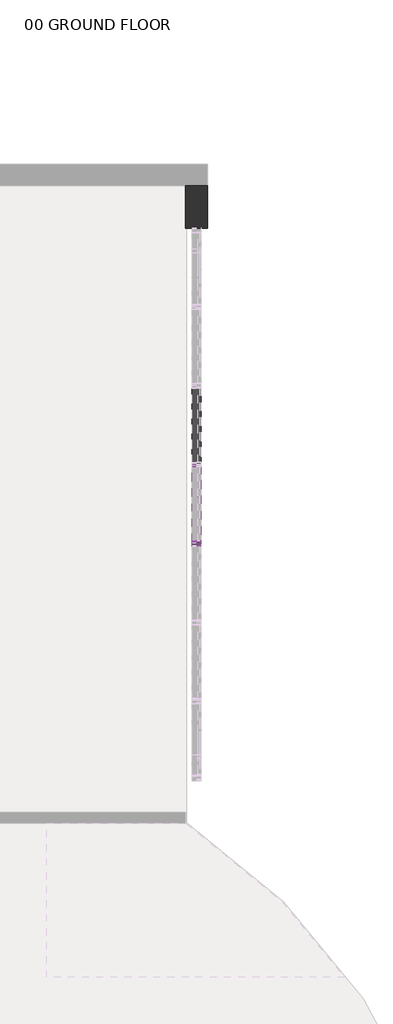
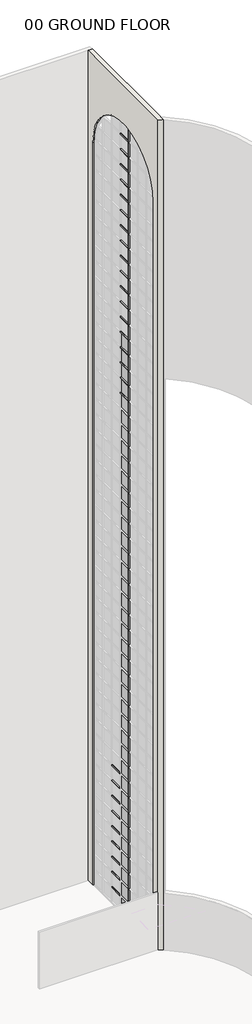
# One storey, part 28 of 33: 81 members, 38 plates, 1 wall.
"""IFC4 building model written with IfcOpenShell, lengths in millimetres."""

from ifc_helpers import new_model, si_unit, frame, origin, place, context, project, spatial, polyline, circle_curve, transform, mapped, element, save
from ifc_brep_helpers import plane_surface, revolved_surface, advanced_brep
from components import member_14f97ceb, member_d1490fb0, member_2b49869a, member_6f85aded, member_a6249bd8, system_panel_glazed_c90b0923, system_panel_glazed_ba000c98

model = new_model("IFC4")

# Units and contexts
model_context = context("Model", 3, world=origin())
ifc_project = project(units=[si_unit("LENGTHUNIT", "METRE", prefix="MILLI")], contexts=[model_context])

# Site, building, storey
site = spatial("IfcSite", under=ifc_project)
building = spatial("IfcBuilding", under=site)
storey = spatial("IfcBuildingStorey", under=building, Name="00 GROUND FLOOR", Elevation=0.0)

# Members
placement = place(None, origin())
member_shape = member_14f97ceb(model_context)
element("IfcMember", 1, ObjectType="Rectangular Mullion : 2.5\" x 5\" rectangular", at=placement, inside=storey, context=model_context, shape_type="MappedRepresentation", body=[
    mapped(member_shape, transform((44184.4050515, 29645.8821428, 0.0), x_axis=(0.0, 0.0, -1.0), y_axis=(-1.0, 0.0, 0.0), z_axis=(0.0, 1.0, 0.0))),
])
member_2_shape = member_d1490fb0(model_context)
element("IfcMember", 2, ObjectType="Rectangular Mullion : 2.5\" x 5\" rectangular", at=placement, inside=storey, context=model_context, shape_type="MappedRepresentation", body=[
    mapped(member_2_shape, transform((44184.4050515, 29709.3821428, 1219.2), x_axis=(0.0, 0.0, 1.0), y_axis=(-1.0, 0.0, 0.0), z_axis=(0.0, -1.0, 0.0))),
])
element("IfcMember", 3, ObjectType="Rectangular Mullion : 2.5\" x 5\" rectangular", at=placement, inside=storey, context=model_context, shape_type="MappedRepresentation", body=[
    mapped(member_2_shape, transform((44184.4050515, 29709.3821428, 2438.4), x_axis=(0.0, 0.0, 1.0), y_axis=(-1.0, 0.0, 0.0), z_axis=(0.0, -1.0, 0.0))),
])
element("IfcMember", 4, ObjectType="Rectangular Mullion : 2.5\" x 5\" rectangular", at=placement, inside=storey, context=model_context, shape_type="MappedRepresentation", body=[
    mapped(member_2_shape, transform((44184.4050515, 29709.3821428, 3657.6), x_axis=(0.0, 0.0, 1.0), y_axis=(-1.0, 0.0, 0.0), z_axis=(0.0, -1.0, 0.0))),
])
element("IfcMember", 5, ObjectType="Rectangular Mullion : 2.5\" x 5\" rectangular", at=placement, inside=storey, context=model_context, shape_type="MappedRepresentation", body=[
    mapped(member_2_shape, transform((44184.4050515, 29709.3821428, 4876.8), x_axis=(0.0, 0.0, 1.0), y_axis=(-1.0, 0.0, 0.0), z_axis=(0.0, -1.0, 0.0))),
])
element("IfcMember", 6, ObjectType="Rectangular Mullion : 2.5\" x 5\" rectangular", at=placement, inside=storey, context=model_context, shape_type="MappedRepresentation", body=[
    mapped(member_2_shape, transform((44184.4050515, 29709.3821428, 6096.0), x_axis=(0.0, 0.0, 1.0), y_axis=(-1.0, 0.0, 0.0), z_axis=(0.0, -1.0, 0.0))),
])
element("IfcMember", 7, ObjectType="Rectangular Mullion : 2.5\" x 5\" rectangular", at=placement, inside=storey, context=model_context, shape_type="MappedRepresentation", body=[
    mapped(member_2_shape, transform((44184.4050515, 29709.3821428, 7315.2), x_axis=(0.0, 0.0, 1.0), y_axis=(-1.0, 0.0, 0.0), z_axis=(0.0, -1.0, 0.0))),
])
element("IfcMember", 8, ObjectType="Rectangular Mullion : 2.5\" x 5\" rectangular", at=placement, inside=storey, context=model_context, shape_type="MappedRepresentation", body=[
    mapped(member_2_shape, transform((44184.4050515, 29709.3821428, 8534.4), x_axis=(0.0, 0.0, 1.0), y_axis=(-1.0, 0.0, 0.0), z_axis=(0.0, -1.0, 0.0))),
])
element("IfcMember", 9, ObjectType="Rectangular Mullion : 2.5\" x 5\" rectangular", at=placement, inside=storey, context=model_context, shape_type="MappedRepresentation", body=[
    mapped(member_2_shape, transform((44184.4050515, 29709.3821428, 9753.6), x_axis=(0.0, 0.0, 1.0), y_axis=(-1.0, 0.0, 0.0), z_axis=(0.0, -1.0, 0.0))),
])
element("IfcMember", 10, ObjectType="Rectangular Mullion : 2.5\" x 5\" rectangular", at=placement, inside=storey, context=model_context, shape_type="MappedRepresentation", body=[
    mapped(member_2_shape, transform((44184.4050515, 29709.3821428, 10972.8), x_axis=(0.0, 0.0, 1.0), y_axis=(-1.0, 0.0, 0.0), z_axis=(0.0, -1.0, 0.0))),
])
element("IfcMember", 11, ObjectType="Rectangular Mullion : 2.5\" x 5\" rectangular", at=placement, inside=storey, context=model_context, shape_type="MappedRepresentation", body=[
    mapped(member_2_shape, transform((44184.4050515, 28577.2678572, 41452.8), x_axis=(0.0, 0.0, 1.0), y_axis=(-1.0, 0.0, 0.0), z_axis=(0.0, -1.0, 0.0))),
])
element("IfcMember", 12, ObjectType="Rectangular Mullion : 2.5\" x 5\" rectangular", at=placement, inside=storey, context=model_context, shape_type="MappedRepresentation", body=[
    mapped(member_2_shape, transform((44184.4050515, 28577.2678572, 42672.0), x_axis=(0.0, 0.0, 1.0), y_axis=(-1.0, 0.0, 0.0), z_axis=(0.0, -1.0, 0.0))),
])
element("IfcMember", 13, ObjectType="Rectangular Mullion : 2.5\" x 5\" rectangular", at=placement, inside=storey, context=model_context, shape_type="MappedRepresentation", body=[
    mapped(member_2_shape, transform((44184.4050515, 28577.2678572, 43891.2), x_axis=(0.0, 0.0, 1.0), y_axis=(-1.0, 0.0, 0.0), z_axis=(0.0, -1.0, 0.0))),
])
element("IfcMember", 14, ObjectType="Rectangular Mullion : 2.5\" x 5\" rectangular", at=placement, inside=storey, context=model_context, shape_type="MappedRepresentation", body=[
    mapped(member_2_shape, transform((44184.4050515, 28577.2678572, 45110.4), x_axis=(0.0, 0.0, 1.0), y_axis=(-1.0, 0.0, 0.0), z_axis=(0.0, -1.0, 0.0))),
])
element("IfcMember", 15, ObjectType="Rectangular Mullion : 2.5\" x 5\" rectangular", at=placement, inside=storey, context=model_context, shape_type="MappedRepresentation", body=[
    mapped(member_2_shape, transform((44184.4050515, 28577.2678572, 46329.6), x_axis=(0.0, 0.0, 1.0), y_axis=(-1.0, 0.0, 0.0), z_axis=(0.0, -1.0, 0.0))),
])
element("IfcMember", 16, ObjectType="Rectangular Mullion : 2.5\" x 5\" rectangular", at=placement, inside=storey, context=model_context, shape_type="MappedRepresentation", body=[
    mapped(member_2_shape, transform((44184.4050515, 28577.2678572, 47548.8), x_axis=(0.0, 0.0, 1.0), y_axis=(-1.0, 0.0, 0.0), z_axis=(0.0, -1.0, 0.0))),
])
element("IfcMember", 17, ObjectType="Rectangular Mullion : 2.5\" x 5\" rectangular", at=placement, inside=storey, context=model_context, shape_type="MappedRepresentation", body=[
    mapped(member_2_shape, transform((44184.4050515, 28577.2678572, 48768.0), x_axis=(0.0, 0.0, 1.0), y_axis=(-1.0, 0.0, 0.0), z_axis=(0.0, -1.0, 0.0))),
])
element("IfcMember", 18, ObjectType="Rectangular Mullion : 2.5\" x 5\" rectangular", at=placement, inside=storey, context=model_context, shape_type="MappedRepresentation", body=[
    mapped(member_2_shape, transform((44184.4050515, 28577.2678572, 49987.2), x_axis=(0.0, 0.0, 1.0), y_axis=(-1.0, 0.0, 0.0), z_axis=(0.0, -1.0, 0.0))),
])
element("IfcMember", 19, ObjectType="Rectangular Mullion : 2.5\" x 5\" rectangular", at=placement, inside=storey, context=model_context, shape_type="MappedRepresentation", body=[
    mapped(member_2_shape, transform((44184.4050515, 28577.2678572, 51206.4), x_axis=(0.0, 0.0, 1.0), y_axis=(-1.0, 0.0, 0.0), z_axis=(0.0, -1.0, 0.0))),
])
element("IfcMember", 20, ObjectType="Rectangular Mullion : 2.5\" x 5\" rectangular", at=placement, inside=storey, context=model_context, shape_type="MappedRepresentation", body=[
    mapped(member_2_shape, transform((44184.4050515, 28577.2678572, 52425.6), x_axis=(0.0, 0.0, 1.0), y_axis=(-1.0, 0.0, 0.0), z_axis=(0.0, -1.0, 0.0))),
])
element("IfcMember", 21, ObjectType="Rectangular Mullion : 2.5\" x 5\" rectangular", at=placement, inside=storey, context=model_context, shape_type="MappedRepresentation", body=[
    mapped(member_2_shape, transform((44184.4050515, 28577.2678572, 53644.8), x_axis=(0.0, 0.0, 1.0), y_axis=(-1.0, 0.0, 0.0), z_axis=(0.0, -1.0, 0.0))),
])
element("IfcMember", 22, ObjectType="Rectangular Mullion : 2.5\" x 5\" rectangular", at=placement, inside=storey, context=model_context, shape_type="MappedRepresentation", body=[
    mapped(member_2_shape, transform((44184.4050515, 28577.2678572, 54864.0), x_axis=(0.0, 0.0, 1.0), y_axis=(-1.0, 0.0, 0.0), z_axis=(0.0, -1.0, 0.0))),
])
element("IfcMember", 23, ObjectType="Rectangular Mullion : 2.5\" x 5\" rectangular", at=placement, inside=storey, context=model_context, shape_type="MappedRepresentation", body=[
    mapped(member_2_shape, transform((44184.4050515, 28577.2678572, 56083.2), x_axis=(0.0, 0.0, 1.0), y_axis=(-1.0, 0.0, 0.0), z_axis=(0.0, -1.0, 0.0))),
])
element("IfcMember", 24, ObjectType="Rectangular Mullion : 2.5\" x 5\" rectangular", at=placement, inside=storey, context=model_context, shape_type="MappedRepresentation", body=[
    mapped(member_2_shape, transform((44184.4050515, 28577.2678572, 57302.4), x_axis=(0.0, 0.0, 1.0), y_axis=(-1.0, 0.0, 0.0), z_axis=(0.0, -1.0, 0.0))),
])
element("IfcMember", 25, ObjectType="Rectangular Mullion : 2.5\" x 5\" rectangular", at=placement, inside=storey, context=model_context, shape_type="MappedRepresentation", body=[
    mapped(member_2_shape, transform((44184.4050515, 28577.2678572, 58521.6), x_axis=(0.0, 0.0, 1.0), y_axis=(-1.0, 0.0, 0.0), z_axis=(0.0, -1.0, 0.0))),
])
element("IfcMember", 26, ObjectType="Rectangular Mullion : 2.5\" x 5\" rectangular", at=placement, inside=storey, context=model_context, shape_type="MappedRepresentation", body=[
    mapped(member_2_shape, transform((44184.4050515, 28577.2678572, 59740.8), x_axis=(0.0, 0.0, 1.0), y_axis=(-1.0, 0.0, 0.0), z_axis=(0.0, -1.0, 0.0))),
])
element("IfcMember", 27, ObjectType="Rectangular Mullion : 2.5\" x 5\" rectangular", at=placement, inside=storey, context=model_context, shape_type="MappedRepresentation", body=[
    mapped(member_2_shape, transform((44184.4050515, 28577.2678572, 60960.0), x_axis=(0.0, 0.0, 1.0), y_axis=(-1.0, 0.0, 0.0), z_axis=(0.0, -1.0, 0.0))),
])
element("IfcMember", 28, ObjectType="Rectangular Mullion : 2.5\" x 5\" rectangular", at=placement, inside=storey, context=model_context, shape_type="MappedRepresentation", body=[
    mapped(member_2_shape, transform((44184.4050515, 28577.2678572, 62179.2), x_axis=(0.0, 0.0, 1.0), y_axis=(-1.0, 0.0, 0.0), z_axis=(0.0, -1.0, 0.0))),
])
member_3_shape = member_2b49869a(model_context)
element("IfcMember", 29, ObjectType="Rectangular Mullion : 2.5\" x 5\" rectangular", at=placement, inside=storey, context=model_context, shape_type="MappedRepresentation", body=[
    mapped(member_3_shape, transform((44184.4050515, 28545.5178572, 0.0), x_axis=(0.0, -1.0, 0.0), y_axis=(-1.0, 0.0, 0.0), z_axis=(0.0, 0.0, -1.0))),
])
element("IfcMember", 30, ObjectType="Rectangular Mullion : 2.5\" x 5\" rectangular", at=placement, inside=storey, context=model_context, shape_type="MappedRepresentation", body=[
    mapped(member_3_shape, transform((44184.4050515, 28545.5178572, 1219.2), x_axis=(0.0, -1.0, 0.0), y_axis=(-1.0, 0.0, 0.0), z_axis=(0.0, 0.0, -1.0))),
])
element("IfcMember", 31, ObjectType="Rectangular Mullion : 2.5\" x 5\" rectangular", at=placement, inside=storey, context=model_context, shape_type="MappedRepresentation", body=[
    mapped(member_3_shape, transform((44184.4050515, 28545.5178572, 2438.4), x_axis=(0.0, -1.0, 0.0), y_axis=(-1.0, 0.0, 0.0), z_axis=(0.0, 0.0, -1.0))),
])
element("IfcMember", 32, ObjectType="Rectangular Mullion : 2.5\" x 5\" rectangular", at=placement, inside=storey, context=model_context, shape_type="MappedRepresentation", body=[
    mapped(member_3_shape, transform((44184.4050515, 28545.5178572, 3657.6), x_axis=(0.0, -1.0, 0.0), y_axis=(-1.0, 0.0, 0.0), z_axis=(0.0, 0.0, -1.0))),
])
element("IfcMember", 33, ObjectType="Rectangular Mullion : 2.5\" x 5\" rectangular", at=placement, inside=storey, context=model_context, shape_type="MappedRepresentation", body=[
    mapped(member_3_shape, transform((44184.4050515, 28545.5178572, 4876.8), x_axis=(0.0, -1.0, 0.0), y_axis=(-1.0, 0.0, 0.0), z_axis=(0.0, 0.0, -1.0))),
])
element("IfcMember", 34, ObjectType="Rectangular Mullion : 2.5\" x 5\" rectangular", at=placement, inside=storey, context=model_context, shape_type="MappedRepresentation", body=[
    mapped(member_3_shape, transform((44184.4050515, 28545.5178572, 6096.0), x_axis=(0.0, -1.0, 0.0), y_axis=(-1.0, 0.0, 0.0), z_axis=(0.0, 0.0, -1.0))),
])
element("IfcMember", 35, ObjectType="Rectangular Mullion : 2.5\" x 5\" rectangular", at=placement, inside=storey, context=model_context, shape_type="MappedRepresentation", body=[
    mapped(member_3_shape, transform((44184.4050515, 28545.5178572, 7315.2), x_axis=(0.0, -1.0, 0.0), y_axis=(-1.0, 0.0, 0.0), z_axis=(0.0, 0.0, -1.0))),
])
element("IfcMember", 36, ObjectType="Rectangular Mullion : 2.5\" x 5\" rectangular", at=placement, inside=storey, context=model_context, shape_type="MappedRepresentation", body=[
    mapped(member_3_shape, transform((44184.4050515, 28545.5178572, 8534.4), x_axis=(0.0, -1.0, 0.0), y_axis=(-1.0, 0.0, 0.0), z_axis=(0.0, 0.0, -1.0))),
])
element("IfcMember", 37, ObjectType="Rectangular Mullion : 2.5\" x 5\" rectangular", at=placement, inside=storey, context=model_context, shape_type="MappedRepresentation", body=[
    mapped(member_3_shape, transform((44184.4050515, 28545.5178572, 9753.6), x_axis=(0.0, -1.0, 0.0), y_axis=(-1.0, 0.0, 0.0), z_axis=(0.0, 0.0, -1.0))),
])
element("IfcMember", 38, ObjectType="Rectangular Mullion : 2.5\" x 5\" rectangular", at=placement, inside=storey, context=model_context, shape_type="MappedRepresentation", body=[
    mapped(member_3_shape, transform((44184.4050515, 28545.5178572, 10972.8), x_axis=(0.0, -1.0, 0.0), y_axis=(-1.0, 0.0, 0.0), z_axis=(0.0, 0.0, -1.0))),
])
element("IfcMember", 39, ObjectType="Rectangular Mullion : 2.5\" x 5\" rectangular", at=placement, inside=storey, context=model_context, shape_type="MappedRepresentation", body=[
    mapped(member_3_shape, transform((44184.4050515, 28545.5178572, 12192.0), x_axis=(0.0, -1.0, 0.0), y_axis=(-1.0, 0.0, 0.0), z_axis=(0.0, 0.0, -1.0))),
])
element("IfcMember", 40, ObjectType="Rectangular Mullion : 2.5\" x 5\" rectangular", at=placement, inside=storey, context=model_context, shape_type="MappedRepresentation", body=[
    mapped(member_3_shape, transform((44184.4050515, 28545.5178572, 13411.2), x_axis=(0.0, -1.0, 0.0), y_axis=(-1.0, 0.0, 0.0), z_axis=(0.0, 0.0, -1.0))),
])
element("IfcMember", 41, ObjectType="Rectangular Mullion : 2.5\" x 5\" rectangular", at=placement, inside=storey, context=model_context, shape_type="MappedRepresentation", body=[
    mapped(member_3_shape, transform((44184.4050515, 28545.5178572, 14630.4), x_axis=(0.0, -1.0, 0.0), y_axis=(-1.0, 0.0, 0.0), z_axis=(0.0, 0.0, -1.0))),
])
element("IfcMember", 42, ObjectType="Rectangular Mullion : 2.5\" x 5\" rectangular", at=placement, inside=storey, context=model_context, shape_type="MappedRepresentation", body=[
    mapped(member_3_shape, transform((44184.4050515, 28545.5178572, 15849.6), x_axis=(0.0, -1.0, 0.0), y_axis=(-1.0, 0.0, 0.0), z_axis=(0.0, 0.0, -1.0))),
])
element("IfcMember", 43, ObjectType="Rectangular Mullion : 2.5\" x 5\" rectangular", at=placement, inside=storey, context=model_context, shape_type="MappedRepresentation", body=[
    mapped(member_3_shape, transform((44184.4050515, 28545.5178572, 17068.8), x_axis=(0.0, -1.0, 0.0), y_axis=(-1.0, 0.0, 0.0), z_axis=(0.0, 0.0, -1.0))),
])
element("IfcMember", 44, ObjectType="Rectangular Mullion : 2.5\" x 5\" rectangular", at=placement, inside=storey, context=model_context, shape_type="MappedRepresentation", body=[
    mapped(member_3_shape, transform((44184.4050515, 28545.5178572, 18288.0), x_axis=(0.0, -1.0, 0.0), y_axis=(-1.0, 0.0, 0.0), z_axis=(0.0, 0.0, -1.0))),
])
element("IfcMember", 45, ObjectType="Rectangular Mullion : 2.5\" x 5\" rectangular", at=placement, inside=storey, context=model_context, shape_type="MappedRepresentation", body=[
    mapped(member_3_shape, transform((44184.4050515, 28545.5178572, 19507.2), x_axis=(0.0, -1.0, 0.0), y_axis=(-1.0, 0.0, 0.0), z_axis=(0.0, 0.0, -1.0))),
])
element("IfcMember", 46, ObjectType="Rectangular Mullion : 2.5\" x 5\" rectangular", at=placement, inside=storey, context=model_context, shape_type="MappedRepresentation", body=[
    mapped(member_3_shape, transform((44184.4050515, 28545.5178572, 20726.4), x_axis=(0.0, -1.0, 0.0), y_axis=(-1.0, 0.0, 0.0), z_axis=(0.0, 0.0, -1.0))),
])
element("IfcMember", 47, ObjectType="Rectangular Mullion : 2.5\" x 5\" rectangular", at=placement, inside=storey, context=model_context, shape_type="MappedRepresentation", body=[
    mapped(member_3_shape, transform((44184.4050515, 28545.5178572, 21945.6), x_axis=(0.0, -1.0, 0.0), y_axis=(-1.0, 0.0, 0.0), z_axis=(0.0, 0.0, -1.0))),
])
element("IfcMember", 48, ObjectType="Rectangular Mullion : 2.5\" x 5\" rectangular", at=placement, inside=storey, context=model_context, shape_type="MappedRepresentation", body=[
    mapped(member_3_shape, transform((44184.4050515, 28545.5178572, 23164.8), x_axis=(0.0, -1.0, 0.0), y_axis=(-1.0, 0.0, 0.0), z_axis=(0.0, 0.0, -1.0))),
])
element("IfcMember", 49, ObjectType="Rectangular Mullion : 2.5\" x 5\" rectangular", at=placement, inside=storey, context=model_context, shape_type="MappedRepresentation", body=[
    mapped(member_3_shape, transform((44184.4050515, 28545.5178572, 24384.0), x_axis=(0.0, -1.0, 0.0), y_axis=(-1.0, 0.0, 0.0), z_axis=(0.0, 0.0, -1.0))),
])
element("IfcMember", 50, ObjectType="Rectangular Mullion : 2.5\" x 5\" rectangular", at=placement, inside=storey, context=model_context, shape_type="MappedRepresentation", body=[
    mapped(member_3_shape, transform((44184.4050515, 28545.5178572, 25603.2), x_axis=(0.0, -1.0, 0.0), y_axis=(-1.0, 0.0, 0.0), z_axis=(0.0, 0.0, -1.0))),
])
element("IfcMember", 51, ObjectType="Rectangular Mullion : 2.5\" x 5\" rectangular", at=placement, inside=storey, context=model_context, shape_type="MappedRepresentation", body=[
    mapped(member_3_shape, transform((44184.4050515, 28545.5178572, 26822.4), x_axis=(0.0, -1.0, 0.0), y_axis=(-1.0, 0.0, 0.0), z_axis=(0.0, 0.0, -1.0))),
])
element("IfcMember", 52, ObjectType="Rectangular Mullion : 2.5\" x 5\" rectangular", at=placement, inside=storey, context=model_context, shape_type="MappedRepresentation", body=[
    mapped(member_3_shape, transform((44184.4050515, 28545.5178572, 28041.6), x_axis=(0.0, -1.0, 0.0), y_axis=(-1.0, 0.0, 0.0), z_axis=(0.0, 0.0, -1.0))),
])
element("IfcMember", 53, ObjectType="Rectangular Mullion : 2.5\" x 5\" rectangular", at=placement, inside=storey, context=model_context, shape_type="MappedRepresentation", body=[
    mapped(member_3_shape, transform((44184.4050515, 28545.5178572, 29260.8), x_axis=(0.0, -1.0, 0.0), y_axis=(-1.0, 0.0, 0.0), z_axis=(0.0, 0.0, -1.0))),
])
element("IfcMember", 54, ObjectType="Rectangular Mullion : 2.5\" x 5\" rectangular", at=placement, inside=storey, context=model_context, shape_type="MappedRepresentation", body=[
    mapped(member_3_shape, transform((44184.4050515, 28545.5178572, 30480.0), x_axis=(0.0, -1.0, 0.0), y_axis=(-1.0, 0.0, 0.0), z_axis=(0.0, 0.0, -1.0))),
])
element("IfcMember", 55, ObjectType="Rectangular Mullion : 2.5\" x 5\" rectangular", at=placement, inside=storey, context=model_context, shape_type="MappedRepresentation", body=[
    mapped(member_3_shape, transform((44184.4050515, 28545.5178572, 31699.2), x_axis=(0.0, -1.0, 0.0), y_axis=(-1.0, 0.0, 0.0), z_axis=(0.0, 0.0, -1.0))),
])
element("IfcMember", 56, ObjectType="Rectangular Mullion : 2.5\" x 5\" rectangular", at=placement, inside=storey, context=model_context, shape_type="MappedRepresentation", body=[
    mapped(member_3_shape, transform((44184.4050515, 28545.5178572, 32918.4), x_axis=(0.0, -1.0, 0.0), y_axis=(-1.0, 0.0, 0.0), z_axis=(0.0, 0.0, -1.0))),
])
element("IfcMember", 57, ObjectType="Rectangular Mullion : 2.5\" x 5\" rectangular", at=placement, inside=storey, context=model_context, shape_type="MappedRepresentation", body=[
    mapped(member_3_shape, transform((44184.4050515, 28545.5178572, 34137.6), x_axis=(0.0, -1.0, 0.0), y_axis=(-1.0, 0.0, 0.0), z_axis=(0.0, 0.0, -1.0))),
])
element("IfcMember", 58, ObjectType="Rectangular Mullion : 2.5\" x 5\" rectangular", at=placement, inside=storey, context=model_context, shape_type="MappedRepresentation", body=[
    mapped(member_3_shape, transform((44184.4050515, 28545.5178572, 35356.8), x_axis=(0.0, -1.0, 0.0), y_axis=(-1.0, 0.0, 0.0), z_axis=(0.0, 0.0, -1.0))),
])
element("IfcMember", 59, ObjectType="Rectangular Mullion : 2.5\" x 5\" rectangular", at=placement, inside=storey, context=model_context, shape_type="MappedRepresentation", body=[
    mapped(member_3_shape, transform((44184.4050515, 28545.5178572, 36576.0), x_axis=(0.0, -1.0, 0.0), y_axis=(-1.0, 0.0, 0.0), z_axis=(0.0, 0.0, -1.0))),
])
element("IfcMember", 60, ObjectType="Rectangular Mullion : 2.5\" x 5\" rectangular", at=placement, inside=storey, context=model_context, shape_type="MappedRepresentation", body=[
    mapped(member_3_shape, transform((44184.4050515, 28545.5178572, 37795.2), x_axis=(0.0, -1.0, 0.0), y_axis=(-1.0, 0.0, 0.0), z_axis=(0.0, 0.0, -1.0))),
])
element("IfcMember", 61, ObjectType="Rectangular Mullion : 2.5\" x 5\" rectangular", at=placement, inside=storey, context=model_context, shape_type="MappedRepresentation", body=[
    mapped(member_3_shape, transform((44184.4050515, 28545.5178572, 39014.4), x_axis=(0.0, -1.0, 0.0), y_axis=(-1.0, 0.0, 0.0), z_axis=(0.0, 0.0, -1.0))),
])
element("IfcMember", 62, ObjectType="Rectangular Mullion : 2.5\" x 5\" rectangular", at=placement, inside=storey, context=model_context, shape_type="MappedRepresentation", body=[
    mapped(member_3_shape, transform((44184.4050515, 28545.5178572, 40233.6), x_axis=(0.0, -1.0, 0.0), y_axis=(-1.0, 0.0, 0.0), z_axis=(0.0, 0.0, -1.0))),
])
element("IfcMember", 63, ObjectType="Rectangular Mullion : 2.5\" x 5\" rectangular", at=placement, inside=storey, context=model_context, shape_type="MappedRepresentation", body=[
    mapped(member_3_shape, transform((44184.4050515, 28545.5178572, 41452.8), x_axis=(0.0, -1.0, 0.0), y_axis=(-1.0, 0.0, 0.0), z_axis=(0.0, 0.0, -1.0))),
])
element("IfcMember", 64, ObjectType="Rectangular Mullion : 2.5\" x 5\" rectangular", at=placement, inside=storey, context=model_context, shape_type="MappedRepresentation", body=[
    mapped(member_3_shape, transform((44184.4050515, 28545.5178572, 42672.0), x_axis=(0.0, -1.0, 0.0), y_axis=(-1.0, 0.0, 0.0), z_axis=(0.0, 0.0, -1.0))),
])
element("IfcMember", 65, ObjectType="Rectangular Mullion : 2.5\" x 5\" rectangular", at=placement, inside=storey, context=model_context, shape_type="MappedRepresentation", body=[
    mapped(member_3_shape, transform((44184.4050515, 28545.5178572, 43891.2), x_axis=(0.0, -1.0, 0.0), y_axis=(-1.0, 0.0, 0.0), z_axis=(0.0, 0.0, -1.0))),
])
element("IfcMember", 66, ObjectType="Rectangular Mullion : 2.5\" x 5\" rectangular", at=placement, inside=storey, context=model_context, shape_type="MappedRepresentation", body=[
    mapped(member_3_shape, transform((44184.4050515, 28545.5178572, 45110.4), x_axis=(0.0, -1.0, 0.0), y_axis=(-1.0, 0.0, 0.0), z_axis=(0.0, 0.0, -1.0))),
])
element("IfcMember", 67, ObjectType="Rectangular Mullion : 2.5\" x 5\" rectangular", at=placement, inside=storey, context=model_context, shape_type="MappedRepresentation", body=[
    mapped(member_3_shape, transform((44184.4050515, 28545.5178572, 46329.6), x_axis=(0.0, -1.0, 0.0), y_axis=(-1.0, 0.0, 0.0), z_axis=(0.0, 0.0, -1.0))),
])
element("IfcMember", 68, ObjectType="Rectangular Mullion : 2.5\" x 5\" rectangular", at=placement, inside=storey, context=model_context, shape_type="MappedRepresentation", body=[
    mapped(member_3_shape, transform((44184.4050515, 28545.5178572, 47548.8), x_axis=(0.0, -1.0, 0.0), y_axis=(-1.0, 0.0, 0.0), z_axis=(0.0, 0.0, -1.0))),
])
element("IfcMember", 69, ObjectType="Rectangular Mullion : 2.5\" x 5\" rectangular", at=placement, inside=storey, context=model_context, shape_type="MappedRepresentation", body=[
    mapped(member_3_shape, transform((44184.4050515, 28545.5178572, 48768.0), x_axis=(0.0, -1.0, 0.0), y_axis=(-1.0, 0.0, 0.0), z_axis=(0.0, 0.0, -1.0))),
])
element("IfcMember", 70, ObjectType="Rectangular Mullion : 2.5\" x 5\" rectangular", at=placement, inside=storey, context=model_context, shape_type="MappedRepresentation", body=[
    mapped(member_3_shape, transform((44184.4050515, 28545.5178572, 49987.2), x_axis=(0.0, -1.0, 0.0), y_axis=(-1.0, 0.0, 0.0), z_axis=(0.0, 0.0, -1.0))),
])
element("IfcMember", 71, ObjectType="Rectangular Mullion : 2.5\" x 5\" rectangular", at=placement, inside=storey, context=model_context, shape_type="MappedRepresentation", body=[
    mapped(member_3_shape, transform((44184.4050515, 28545.5178572, 51206.4), x_axis=(0.0, -1.0, 0.0), y_axis=(-1.0, 0.0, 0.0), z_axis=(0.0, 0.0, -1.0))),
])
element("IfcMember", 72, ObjectType="Rectangular Mullion : 2.5\" x 5\" rectangular", at=placement, inside=storey, context=model_context, shape_type="MappedRepresentation", body=[
    mapped(member_3_shape, transform((44184.4050515, 28545.5178572, 52425.6), x_axis=(0.0, -1.0, 0.0), y_axis=(-1.0, 0.0, 0.0), z_axis=(0.0, 0.0, -1.0))),
])
element("IfcMember", 73, ObjectType="Rectangular Mullion : 2.5\" x 5\" rectangular", at=placement, inside=storey, context=model_context, shape_type="MappedRepresentation", body=[
    mapped(member_3_shape, transform((44184.4050515, 28545.5178572, 53644.8), x_axis=(0.0, -1.0, 0.0), y_axis=(-1.0, 0.0, 0.0), z_axis=(0.0, 0.0, -1.0))),
])
element("IfcMember", 74, ObjectType="Rectangular Mullion : 2.5\" x 5\" rectangular", at=placement, inside=storey, context=model_context, shape_type="MappedRepresentation", body=[
    mapped(member_3_shape, transform((44184.4050515, 28545.5178572, 54864.0), x_axis=(0.0, -1.0, 0.0), y_axis=(-1.0, 0.0, 0.0), z_axis=(0.0, 0.0, -1.0))),
])
element("IfcMember", 75, ObjectType="Rectangular Mullion : 2.5\" x 5\" rectangular", at=placement, inside=storey, context=model_context, shape_type="MappedRepresentation", body=[
    mapped(member_3_shape, transform((44184.4050515, 28545.5178572, 56083.2), x_axis=(0.0, -1.0, 0.0), y_axis=(-1.0, 0.0, 0.0), z_axis=(0.0, 0.0, -1.0))),
])
element("IfcMember", 76, ObjectType="Rectangular Mullion : 2.5\" x 5\" rectangular", at=placement, inside=storey, context=model_context, shape_type="MappedRepresentation", body=[
    mapped(member_3_shape, transform((44184.4050515, 28545.5178572, 57302.4), x_axis=(0.0, -1.0, 0.0), y_axis=(-1.0, 0.0, 0.0), z_axis=(0.0, 0.0, -1.0))),
])
element("IfcMember", 77, ObjectType="Rectangular Mullion : 2.5\" x 5\" rectangular", at=placement, inside=storey, context=model_context, shape_type="MappedRepresentation", body=[
    mapped(member_3_shape, transform((44184.4050515, 28545.5178572, 58521.6), x_axis=(0.0, -1.0, 0.0), y_axis=(-1.0, 0.0, 0.0), z_axis=(0.0, 0.0, -1.0))),
])
element("IfcMember", 78, ObjectType="Rectangular Mullion : 2.5\" x 5\" rectangular", at=placement, inside=storey, context=model_context, shape_type="MappedRepresentation", body=[
    mapped(member_3_shape, transform((44184.4050515, 28545.5178572, 59740.8), x_axis=(0.0, -1.0, 0.0), y_axis=(-1.0, 0.0, 0.0), z_axis=(0.0, 0.0, -1.0))),
])
element("IfcMember", 79, ObjectType="Rectangular Mullion : 2.5\" x 5\" rectangular", at=placement, inside=storey, context=model_context, shape_type="MappedRepresentation", body=[
    mapped(member_3_shape, transform((44184.4050515, 28545.5178572, 60960.0), x_axis=(0.0, -1.0, 0.0), y_axis=(-1.0, 0.0, 0.0), z_axis=(0.0, 0.0, -1.0))),
])
member_4_shape = member_6f85aded(model_context)
element("IfcMember", 80, ObjectType="Rectangular Mullion : 2.5\" x 5\" rectangular", at=placement, inside=storey, context=model_context, shape_type="MappedRepresentation", body=[
    mapped(member_4_shape, transform((44184.4050515, 28545.5178572, 63357.7589257), x_axis=(0.0, -0.1428571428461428, 0.9897433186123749), y_axis=(-1.0, 0.0, 0.0), z_axis=(0.0, -0.9897433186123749, -0.1428571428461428))),
])
member_5_shape = member_a6249bd8(model_context)
element("IfcMember", 81, ObjectType="Rectangular Mullion : 2.5\" x 5\" rectangular", at=placement, inside=storey, context=model_context, shape_type="MappedRepresentation", body=[
    mapped(member_5_shape, transform((44184.4050515, 28545.5178572, 62179.2), x_axis=(0.0, -1.0, 0.0), y_axis=(-1.0, 0.0, 0.0), z_axis=(0.0, 0.0, -1.0))),
])

# Plates
system_panel_glazed_shape = system_panel_glazed_c90b0923(model_context)
element("IfcPlate", 82, ObjectType="System Panel : Glazed", at=placement, inside=storey, context=model_context, shape_type="MappedRepresentation", body=[
    mapped(system_panel_glazed_shape, transform((44184.4050515, 29111.575, 63.5), x_axis=(0.0, -1.0, 0.0), y_axis=(1.0, 0.0, 0.0), z_axis=(0.0, 0.0, 1.0))),
])
system_panel_glazed_2_shape = system_panel_glazed_ba000c98(model_context)
element("IfcPlate", 83, ObjectType="System Panel : Glazed", at=placement, inside=storey, context=model_context, shape_type="MappedRepresentation", body=[
    mapped(system_panel_glazed_2_shape, transform((44184.4050515, 29111.575, 1250.95), x_axis=(0.0, -1.0, 0.0), y_axis=(1.0, 0.0, 0.0), z_axis=(0.0, 0.0, 1.0))),
])
element("IfcPlate", 84, ObjectType="System Panel : Glazed", at=placement, inside=storey, context=model_context, shape_type="MappedRepresentation", body=[
    mapped(system_panel_glazed_2_shape, transform((44184.4050515, 29111.575, 2470.15), x_axis=(0.0, -1.0, 0.0), y_axis=(1.0, 0.0, 0.0), z_axis=(0.0, 0.0, 1.0))),
])
element("IfcPlate", 85, ObjectType="System Panel : Glazed", at=placement, inside=storey, context=model_context, shape_type="MappedRepresentation", body=[
    mapped(system_panel_glazed_2_shape, transform((44184.4050515, 29111.575, 3689.35), x_axis=(0.0, -1.0, 0.0), y_axis=(1.0, 0.0, 0.0), z_axis=(0.0, 0.0, 1.0))),
])
element("IfcPlate", 86, ObjectType="System Panel : Glazed", at=placement, inside=storey, context=model_context, shape_type="MappedRepresentation", body=[
    mapped(system_panel_glazed_2_shape, transform((44184.4050515, 29111.575, 4908.55), x_axis=(0.0, -1.0, 0.0), y_axis=(1.0, 0.0, 0.0), z_axis=(0.0, 0.0, 1.0))),
])
element("IfcPlate", 87, ObjectType="System Panel : Glazed", at=placement, inside=storey, context=model_context, shape_type="MappedRepresentation", body=[
    mapped(system_panel_glazed_2_shape, transform((44184.4050515, 29111.575, 6127.75), x_axis=(0.0, -1.0, 0.0), y_axis=(1.0, 0.0, 0.0), z_axis=(0.0, 0.0, 1.0))),
])
element("IfcPlate", 88, ObjectType="System Panel : Glazed", at=placement, inside=storey, context=model_context, shape_type="MappedRepresentation", body=[
    mapped(system_panel_glazed_2_shape, transform((44184.4050515, 29111.575, 7346.95), x_axis=(0.0, -1.0, 0.0), y_axis=(1.0, 0.0, 0.0), z_axis=(0.0, 0.0, 1.0))),
])
element("IfcPlate", 89, ObjectType="System Panel : Glazed", at=placement, inside=storey, context=model_context, shape_type="MappedRepresentation", body=[
    mapped(system_panel_glazed_2_shape, transform((44184.4050515, 29111.575, 8566.15), x_axis=(0.0, -1.0, 0.0), y_axis=(1.0, 0.0, 0.0), z_axis=(0.0, 0.0, 1.0))),
])
element("IfcPlate", 90, ObjectType="System Panel : Glazed", at=placement, inside=storey, context=model_context, shape_type="MappedRepresentation", body=[
    mapped(system_panel_glazed_2_shape, transform((44184.4050515, 29111.575, 9785.35), x_axis=(0.0, -1.0, 0.0), y_axis=(1.0, 0.0, 0.0), z_axis=(0.0, 0.0, 1.0))),
])
element("IfcPlate", 91, ObjectType="System Panel : Glazed", at=placement, inside=storey, context=model_context, shape_type="MappedRepresentation", body=[
    mapped(system_panel_glazed_2_shape, transform((44184.4050515, 29111.575, 11004.55), x_axis=(0.0, -1.0, 0.0), y_axis=(1.0, 0.0, 0.0), z_axis=(0.0, 0.0, 1.0))),
])
element("IfcPlate", 92, ObjectType="System Panel : Glazed", at=placement, inside=storey, context=model_context, shape_type="MappedRepresentation", body=[
    mapped(system_panel_glazed_2_shape, transform((44184.4050515, 29111.575, 12223.75), x_axis=(0.0, -1.0, 0.0), y_axis=(1.0, 0.0, 0.0), z_axis=(0.0, 0.0, 1.0))),
])
element("IfcPlate", 93, ObjectType="System Panel : Glazed", at=placement, inside=storey, context=model_context, shape_type="MappedRepresentation", body=[
    mapped(system_panel_glazed_2_shape, transform((44184.4050515, 29111.575, 13442.95), x_axis=(0.0, -1.0, 0.0), y_axis=(1.0, 0.0, 0.0), z_axis=(0.0, 0.0, 1.0))),
])
element("IfcPlate", 94, ObjectType="System Panel : Glazed", at=placement, inside=storey, context=model_context, shape_type="MappedRepresentation", body=[
    mapped(system_panel_glazed_2_shape, transform((44184.4050515, 29111.575, 14662.15), x_axis=(0.0, -1.0, 0.0), y_axis=(1.0, 0.0, 0.0), z_axis=(0.0, 0.0, 1.0))),
])
element("IfcPlate", 95, ObjectType="System Panel : Glazed", at=placement, inside=storey, context=model_context, shape_type="MappedRepresentation", body=[
    mapped(system_panel_glazed_2_shape, transform((44184.4050515, 29111.575, 15881.35), x_axis=(0.0, -1.0, 0.0), y_axis=(1.0, 0.0, 0.0), z_axis=(0.0, 0.0, 1.0))),
])
element("IfcPlate", 96, ObjectType="System Panel : Glazed", at=placement, inside=storey, context=model_context, shape_type="MappedRepresentation", body=[
    mapped(system_panel_glazed_2_shape, transform((44184.4050515, 29111.575, 17100.55), x_axis=(0.0, -1.0, 0.0), y_axis=(1.0, 0.0, 0.0), z_axis=(0.0, 0.0, 1.0))),
])
element("IfcPlate", 97, ObjectType="System Panel : Glazed", at=placement, inside=storey, context=model_context, shape_type="MappedRepresentation", body=[
    mapped(system_panel_glazed_2_shape, transform((44184.4050515, 29111.575, 18319.75), x_axis=(0.0, -1.0, 0.0), y_axis=(1.0, 0.0, 0.0), z_axis=(0.0, 0.0, 1.0))),
])
element("IfcPlate", 98, ObjectType="System Panel : Glazed", at=placement, inside=storey, context=model_context, shape_type="MappedRepresentation", body=[
    mapped(system_panel_glazed_2_shape, transform((44184.4050515, 29111.575, 19538.95), x_axis=(0.0, -1.0, 0.0), y_axis=(1.0, 0.0, 0.0), z_axis=(0.0, 0.0, 1.0))),
])
element("IfcPlate", 99, ObjectType="System Panel : Glazed", at=placement, inside=storey, context=model_context, shape_type="MappedRepresentation", body=[
    mapped(system_panel_glazed_2_shape, transform((44184.4050515, 29111.575, 20758.15), x_axis=(0.0, -1.0, 0.0), y_axis=(1.0, 0.0, 0.0), z_axis=(0.0, 0.0, 1.0))),
])
element("IfcPlate", 100, ObjectType="System Panel : Glazed", at=placement, inside=storey, context=model_context, shape_type="MappedRepresentation", body=[
    mapped(system_panel_glazed_2_shape, transform((44184.4050515, 29111.575, 21977.35), x_axis=(0.0, -1.0, 0.0), y_axis=(1.0, 0.0, 0.0), z_axis=(0.0, 0.0, 1.0))),
])
element("IfcPlate", 101, ObjectType="System Panel : Glazed", at=placement, inside=storey, context=model_context, shape_type="MappedRepresentation", body=[
    mapped(system_panel_glazed_2_shape, transform((44184.4050515, 29111.575, 23196.55), x_axis=(0.0, -1.0, 0.0), y_axis=(1.0, 0.0, 0.0), z_axis=(0.0, 0.0, 1.0))),
])
element("IfcPlate", 102, ObjectType="System Panel : Glazed", at=placement, inside=storey, context=model_context, shape_type="MappedRepresentation", body=[
    mapped(system_panel_glazed_2_shape, transform((44184.4050515, 29111.575, 24415.75), x_axis=(0.0, -1.0, 0.0), y_axis=(1.0, 0.0, 0.0), z_axis=(0.0, 0.0, 1.0))),
])
element("IfcPlate", 103, ObjectType="System Panel : Glazed", at=placement, inside=storey, context=model_context, shape_type="MappedRepresentation", body=[
    mapped(system_panel_glazed_2_shape, transform((44184.4050515, 29111.575, 25634.95), x_axis=(0.0, -1.0, 0.0), y_axis=(1.0, 0.0, 0.0), z_axis=(0.0, 0.0, 1.0))),
])
element("IfcPlate", 104, ObjectType="System Panel : Glazed", at=placement, inside=storey, context=model_context, shape_type="MappedRepresentation", body=[
    mapped(system_panel_glazed_2_shape, transform((44184.4050515, 29111.575, 26854.15), x_axis=(0.0, -1.0, 0.0), y_axis=(1.0, 0.0, 0.0), z_axis=(0.0, 0.0, 1.0))),
])
element("IfcPlate", 105, ObjectType="System Panel : Glazed", at=placement, inside=storey, context=model_context, shape_type="MappedRepresentation", body=[
    mapped(system_panel_glazed_2_shape, transform((44184.4050515, 29111.575, 28073.35), x_axis=(0.0, -1.0, 0.0), y_axis=(1.0, 0.0, 0.0), z_axis=(0.0, 0.0, 1.0))),
])
element("IfcPlate", 106, ObjectType="System Panel : Glazed", at=placement, inside=storey, context=model_context, shape_type="MappedRepresentation", body=[
    mapped(system_panel_glazed_2_shape, transform((44184.4050515, 29111.575, 29292.55), x_axis=(0.0, -1.0, 0.0), y_axis=(1.0, 0.0, 0.0), z_axis=(0.0, 0.0, 1.0))),
])
element("IfcPlate", 107, ObjectType="System Panel : Glazed", at=placement, inside=storey, context=model_context, shape_type="MappedRepresentation", body=[
    mapped(system_panel_glazed_2_shape, transform((44184.4050515, 29111.575, 30511.75), x_axis=(0.0, -1.0, 0.0), y_axis=(1.0, 0.0, 0.0), z_axis=(0.0, 0.0, 1.0))),
])
element("IfcPlate", 108, ObjectType="System Panel : Glazed", at=placement, inside=storey, context=model_context, shape_type="MappedRepresentation", body=[
    mapped(system_panel_glazed_2_shape, transform((44184.4050515, 29111.575, 31730.95), x_axis=(0.0, -1.0, 0.0), y_axis=(1.0, 0.0, 0.0), z_axis=(0.0, 0.0, 1.0))),
])
element("IfcPlate", 109, ObjectType="System Panel : Glazed", at=placement, inside=storey, context=model_context, shape_type="MappedRepresentation", body=[
    mapped(system_panel_glazed_2_shape, transform((44184.4050515, 29111.575, 32950.15), x_axis=(0.0, -1.0, 0.0), y_axis=(1.0, 0.0, 0.0), z_axis=(0.0, 0.0, 1.0))),
])
element("IfcPlate", 110, ObjectType="System Panel : Glazed", at=placement, inside=storey, context=model_context, shape_type="MappedRepresentation", body=[
    mapped(system_panel_glazed_2_shape, transform((44184.4050515, 29111.575, 34169.35), x_axis=(0.0, -1.0, 0.0), y_axis=(1.0, 0.0, 0.0), z_axis=(0.0, 0.0, 1.0))),
])
element("IfcPlate", 111, ObjectType="System Panel : Glazed", at=placement, inside=storey, context=model_context, shape_type="MappedRepresentation", body=[
    mapped(system_panel_glazed_2_shape, transform((44184.4050515, 29111.575, 35388.55), x_axis=(0.0, -1.0, 0.0), y_axis=(1.0, 0.0, 0.0), z_axis=(0.0, 0.0, 1.0))),
])
element("IfcPlate", 112, ObjectType="System Panel : Glazed", at=placement, inside=storey, context=model_context, shape_type="MappedRepresentation", body=[
    mapped(system_panel_glazed_2_shape, transform((44184.4050515, 29111.575, 36607.75), x_axis=(0.0, -1.0, 0.0), y_axis=(1.0, 0.0, 0.0), z_axis=(0.0, 0.0, 1.0))),
])
element("IfcPlate", 113, ObjectType="System Panel : Glazed", at=placement, inside=storey, context=model_context, shape_type="MappedRepresentation", body=[
    mapped(system_panel_glazed_2_shape, transform((44184.4050515, 29111.575, 37826.95), x_axis=(0.0, -1.0, 0.0), y_axis=(1.0, 0.0, 0.0), z_axis=(0.0, 0.0, 1.0))),
])
element("IfcPlate", 114, ObjectType="System Panel : Glazed", at=placement, inside=storey, context=model_context, shape_type="MappedRepresentation", body=[
    mapped(system_panel_glazed_2_shape, transform((44184.4050515, 29111.575, 39046.15), x_axis=(0.0, -1.0, 0.0), y_axis=(1.0, 0.0, 0.0), z_axis=(0.0, 0.0, 1.0))),
])
element("IfcPlate", 115, ObjectType="System Panel : Glazed", at=placement, inside=storey, context=model_context, shape_type="MappedRepresentation", body=[
    mapped(system_panel_glazed_2_shape, transform((44184.4050515, 29111.575, 40265.35), x_axis=(0.0, -1.0, 0.0), y_axis=(1.0, 0.0, 0.0), z_axis=(0.0, 0.0, 1.0))),
])
element("IfcPlate", 116, ObjectType="System Panel : Glazed", at=placement, inside=storey, context=model_context, shape_type="MappedRepresentation", body=[
    mapped(system_panel_glazed_2_shape, transform((44184.4050515, 29111.575, 41484.55), x_axis=(0.0, -1.0, 0.0), y_axis=(1.0, 0.0, 0.0), z_axis=(0.0, 0.0, 1.0))),
])
element("IfcPlate", 117, ObjectType="System Panel : Glazed", at=placement, inside=storey, context=model_context, shape_type="MappedRepresentation", body=[
    mapped(system_panel_glazed_2_shape, transform((44184.4050515, 29111.575, 42703.75), x_axis=(0.0, -1.0, 0.0), y_axis=(1.0, 0.0, 0.0), z_axis=(0.0, 0.0, 1.0))),
])
element("IfcPlate", 118, ObjectType="System Panel : Glazed", at=placement, inside=storey, context=model_context, shape_type="MappedRepresentation", body=[
    mapped(system_panel_glazed_2_shape, transform((44184.4050515, 29111.575, 43922.95), x_axis=(0.0, -1.0, 0.0), y_axis=(1.0, 0.0, 0.0), z_axis=(0.0, 0.0, 1.0))),
])
element("IfcPlate", 119, ObjectType="System Panel : Glazed", at=placement, inside=storey, context=model_context, shape_type="MappedRepresentation", body=[
    mapped(system_panel_glazed_2_shape, transform((44184.4050515, 29111.575, 45142.15), x_axis=(0.0, -1.0, 0.0), y_axis=(1.0, 0.0, 0.0), z_axis=(0.0, 0.0, 1.0))),
])

# Wall
element("IfcWall", 120, ObjectType="Exterior - MAIN EIFS WITH LGMF", at=placement, inside=storey, context=model_context, shape_type="AdvancedBrep", body=[
    advanced_brep(
    [(44028.8300515, 24539.575, 66446.4), (44028.8300515, 33683.575, 66446.4), (44028.8300515, 33683.575, 0.0), (44028.8300515, 33073.975, 0.0), (44028.8300515, 33073.975, 59436.0), (44028.8300515, 25149.175, 59436.0), (44028.8300515, 25149.175, 0.0), (44028.8300515, 24695.15, 0.0), (44028.8300515, 24539.575, 0.0), (44339.9800515, 33683.575, 66446.4), (44339.9800515, 24704.7707801, 66446.4), (44339.9800515, 24323.7729858, 66446.4), (44339.9800515, 24323.7729858, 0.0), (44339.9800515, 24704.7707801, 0.0), (44339.9800515, 25149.175, 0.0), (44339.9800515, 25149.175, 59436.0), (44339.9800515, 33073.975, 59436.0), (44339.9800515, 33073.975, 0.0), (44339.9800515, 33683.575, 0.0)],
    [
        (0, 1),
        (1, 2),
        (2, 3),
        (3, 4),
        (4, 5, circle_curve(frame((44028.8300515, 29111.575, 59436.0), z_axis=(1.0, 0.0, 0.0), x_axis=(0.0, 1.0, 0.0)), 3962.4)),
        (5, 6),
        (6, 7),
        (7, 8),
        (8, 0),
        (9, 10),
        (10, 11),
        (11, 12),
        (12, 13),
        (13, 14),
        (14, 15),
        (15, 16, circle_curve(frame((44339.9800515, 29111.575, 59436.0), z_axis=(-1.0, 0.0, 0.0), x_axis=(0.0, 1.0, 0.0)), 3962.4)),
        (16, 17),
        (17, 18),
        (18, 9),
        (12, 8, circle_curve(frame((38974.293871, 16919.575, 0.0), z_axis=(0.0, 0.0, 1.0), x_axis=(1.0, 0.0, 0.0)), 9144.0)),
        (6, 14),
        (2, 18),
        (17, 3),
        (0, 11, circle_curve(frame((38974.293871, 16919.575, 66446.4), z_axis=(0.0, 0.0, -1.0), x_axis=(1.0, 0.0, 0.0)), 9144.0)),
        (9, 1),
        (16, 4),
        (15, 5),
    ],
    [
        plane_surface(frame((44028.8300515, 33683.575, 0.0), z_axis=(-1.0, 0.0, 0.0), x_axis=(0.0, -1.0, 0.0))),
        plane_surface(frame((44339.9800515, 33683.575, 0.0), z_axis=(1.0, 0.0, 0.0), x_axis=(0.0, 1.0, 0.0))),
        plane_surface(frame((44028.8300515, 33839.15, 0.0), z_axis=(0.0, 0.0, -1.0), x_axis=(1.0, 0.0, 0.0))),
        plane_surface(frame((44028.8300515, 24622.6157416, 66446.4), z_axis=(0.0, 0.0, 1.0), x_axis=(1.0, 0.0, 0.0))),
        revolved_surface(polyline([(48118.293871, 16919.575, 0.0), (48118.293871, 16919.575, 66446.4)]), (38974.293871, 16919.575, 0.0), (0.0, 0.0, -1.0)),
        plane_surface(frame((34884.8300515, 33683.575, 0.0), z_axis=(0.0, 1.0, 0.0), x_axis=(1.0, 0.0, 0.0))),
        plane_surface(frame((44492.3800515, 33073.975, 0.0), z_axis=(0.0, -1.0, 0.0), x_axis=(-1.0, 0.0, 0.0))),
        revolved_surface(polyline([(44339.9800515, 33073.975, 59436.0), (44028.8300515, 33073.975, 59436.0)]), (44197.1050515, 29111.575, 59436.0), (1.0, 0.0, 0.0)),
        plane_surface(frame((44492.3800515, 25149.175, 59436.0), z_axis=(0.0, 1.0, 0.0), x_axis=(-1.0, 0.0, 0.0))),
    ],
    [
        (0, [[1, 2, 3, 4, 5, 6, 7, 8, 9]]),
        (1, [[10, 11, 12, 13, 14, 15, 16, 17, 18, 19]]),
        (2, [[20, -8, -7, 21, -14, -13]]),
        (2, [[22, -18, 23, -3]]),
        (3, [[-1, 24, -11, -10, 25]]),
        (4, [[-20, -12, -24, -9]]),
        (5, [[-2, -25, -19, -22]]),
        (6, [[26, -4, -23, -17]]),
        (7, [[-26, -16, 27, -5]]),
        (8, [[-27, -15, -21, -6]]),
    ],
),
])

save(model, "model.ifc")
